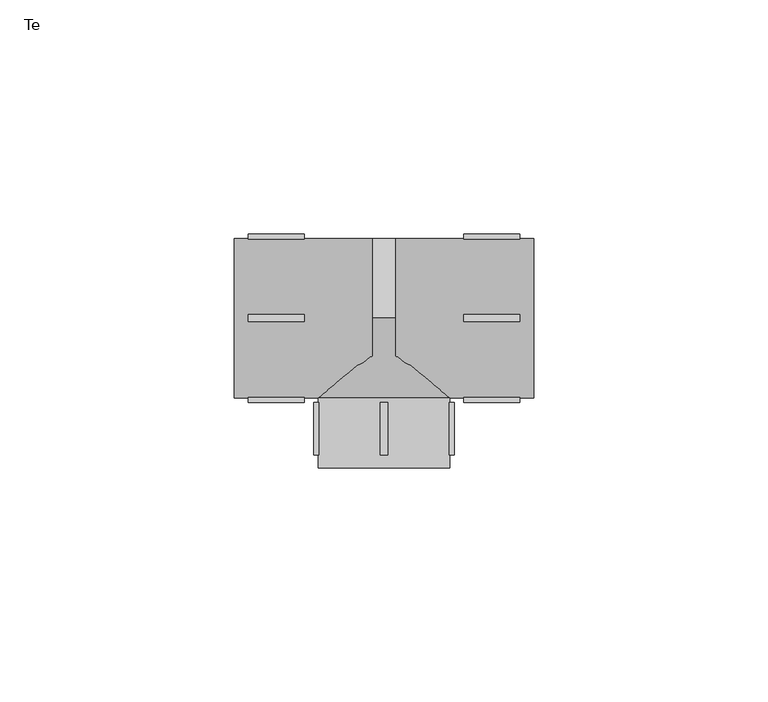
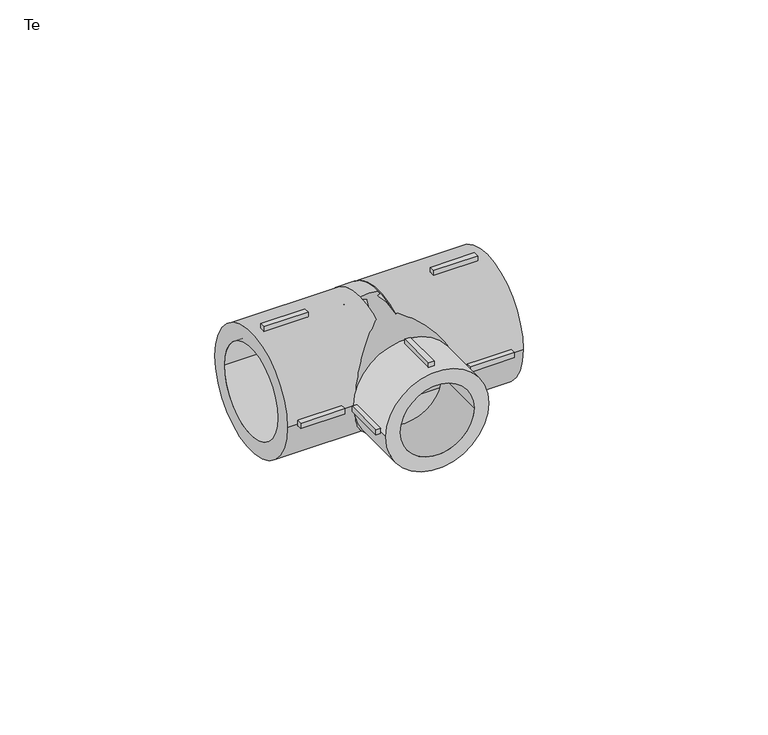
"""IFC4 building model written with IfcOpenShell, lengths in millimetres: pipe fitting geometry, EGB_VASEN_ PPR_Te WXR300_Te reducida WXR310 : Te."""

from ifc_helpers import new_model, si_unit, point, frame, origin, origin_2d, place, context, project, spatial, polyline, circle_curve, trimmed, segment, composite_curve, outline, extrude, source, transform, mapped, element, save
from ifc_brep_helpers import plane_surface, revolved_surface, advanced_brep


def te_0583ec98(model_context):
    return source(origin(), model_context, "Body", "SolidModel", [
        extrude(outline(polyline([(-0.75, -18.0), (0.75, -18.0), (0.75, -29.2), (-0.75, -29.2), (-0.75, -18.0)])), frame((0.0, 0.0, 13.0), z_axis=(0.0, 0.0, 1.0), x_axis=(1.0, 0.0, 0.0)), (0.0, 0.0, 1.0), 2.0),
        extrude(outline(polyline([(-0.75, -18.0), (0.75, -18.0), (0.75, -29.2), (-0.75, -29.2), (-0.75, -18.0)])), frame((0.0, 0.0, -15.0), z_axis=(0.0, 0.0, 1.0), x_axis=(1.0, 0.0, 0.0)), (0.0, 0.0, 1.0), 2.0),
        extrude(outline(polyline([(13.0, -18.0), (15.0, -18.0), (15.0, -29.2), (13.0, -29.2), (13.0, -18.0)])), frame((0.0, 0.0, -0.75), z_axis=(0.0, 0.0, 1.0), x_axis=(1.0, 0.0, 0.0)), (0.0, 0.0, 1.0), 1.5),
        extrude(outline(polyline([(-15.0, -18.0), (-13.0, -18.0), (-13.0, -29.2), (-15.0, -29.2), (-15.0, -18.0)])), frame((0.0, 0.0, -0.75), z_axis=(0.0, 0.0, 1.0), x_axis=(1.0, 0.0, 0.0)), (0.0, 0.0, 1.0), 1.5),
        extrude(outline(polyline([(17.0, -0.75), (17.0, 0.75), (29.0, 0.75), (29.0, -0.75), (17.0, -0.75)])), frame((0.0, 0.0, 16.0), z_axis=(0.0, 0.0, 1.0), x_axis=(1.0, 0.0, 0.0)), (0.0, 0.0, 1.0), 2.0),
        extrude(outline(polyline([(17.0, -0.75), (17.0, 0.75), (29.0, 0.75), (29.0, -0.75), (17.0, -0.75)])), frame((0.0, 0.0, -18.0), z_axis=(0.0, 0.0, 1.0), x_axis=(1.0, 0.0, 0.0)), (0.0, 0.0, 1.0), 2.0),
        extrude(outline(polyline([(17.0, 16.0), (17.0, 18.0), (29.0, 18.0), (29.0, 16.0), (17.0, 16.0)])), frame((0.0, 0.0, -0.75), z_axis=(0.0, 0.0, 1.0), x_axis=(1.0, 0.0, 0.0)), (0.0, 0.0, 1.0), 1.5),
        extrude(outline(polyline([(17.0, -18.0), (17.0, -16.0), (29.0, -16.0), (29.0, -18.0), (17.0, -18.0)])), frame((0.0, 0.0, -0.75), z_axis=(0.0, 0.0, 1.0), x_axis=(1.0, 0.0, 0.0)), (0.0, 0.0, 1.0), 1.5),
        extrude(outline(polyline([(-17.0, 0.75), (-17.0, -0.75), (-29.0, -0.75), (-29.0, 0.75), (-17.0, 0.75)])), frame((0.0, 0.0, 16.0), z_axis=(0.0, 0.0, 1.0), x_axis=(1.0, 0.0, 0.0)), (0.0, 0.0, 1.0), 2.0),
        extrude(outline(polyline([(-17.0, 0.75), (-17.0, -0.75), (-29.0, -0.75), (-29.0, 0.75), (-17.0, 0.75)])), frame((0.0, 0.0, -18.0), z_axis=(0.0, 0.0, 1.0), x_axis=(1.0, 0.0, 0.0)), (0.0, 0.0, 1.0), 2.0),
        extrude(outline(polyline([(-17.0, 18.0), (-17.0, 16.0), (-29.0, 16.0), (-29.0, 18.0), (-17.0, 18.0)])), frame((0.0, 0.0, -0.75), z_axis=(0.0, 0.0, 1.0), x_axis=(1.0, 0.0, 0.0)), (0.0, 0.0, 1.0), 1.5),
        extrude(outline(polyline([(-17.0, -16.0), (-17.0, -18.0), (-29.0, -18.0), (-29.0, -16.0), (-17.0, -16.0)])), frame((0.0, 0.0, -0.75), z_axis=(0.0, 0.0, 1.0), x_axis=(1.0, 0.0, 0.0)), (0.0, 0.0, 1.0), 1.5),
        extrude(outline(composite_curve([segment(trimmed(circle_curve(origin_2d(), 14.0), [point((0.0, 14.0))], [point((0.0, -14.0))], False, "CARTESIAN"), True, "CONTINUOUS"), segment(trimmed(circle_curve(origin_2d(), 14.0), [point((0.0, -14.0))], [point((0.0, 14.0))], False, "CARTESIAN"), True, "CONTINUOUS")], self_intersect=False), holes=[composite_curve([segment(trimmed(circle_curve(origin_2d(), 10.0), [point((0.0, 10.0))], [point((0.0, -10.0))], True, "CARTESIAN"), True, "CONTINUOUS"), segment(trimmed(circle_curve(origin_2d(), 10.0), [point((0.0, -10.0))], [point((0.0, 10.0))], True, "CARTESIAN"), True, "CONTINUOUS")], self_intersect=False)]), frame((0.0, -32.0, 0.0), z_axis=(0.0, 1.0, 0.0), x_axis=(0.0, 0.0, 1.0)), (0.0, 0.0, 1.0), 15.0),
        extrude(outline(composite_curve([segment(trimmed(circle_curve(origin_2d(), 17.0), [point((-17.0, 0.0))], [point((17.0, 0.0))], False, "CARTESIAN"), True, "CONTINUOUS"), segment(trimmed(circle_curve(origin_2d(), 17.0), [point((17.0, 0.0))], [point((-17.0, 0.0))], False, "CARTESIAN"), True, "CONTINUOUS")], self_intersect=False), holes=[composite_curve([segment(trimmed(circle_curve(origin_2d(), 12.5), [point((-12.5, 0.0))], [point((12.5, 0.0))], True, "CARTESIAN"), True, "CONTINUOUS"), segment(trimmed(circle_curve(origin_2d(), 12.5), [point((12.5, 0.0))], [point((-12.5, 0.0))], True, "CARTESIAN"), True, "CONTINUOUS")], self_intersect=False)]), frame((2.56, 0.0, 0.0), z_axis=(1.0, 0.0, 0.0), x_axis=(0.0, 1.0, 0.0)), (0.0, 0.0, 1.0), 29.44),
        extrude(outline(composite_curve([segment(trimmed(circle_curve(origin_2d(), 17.0), [point((-17.0, 0.0))], [point((17.0, 0.0))], False, "CARTESIAN"), True, "CONTINUOUS"), segment(trimmed(circle_curve(origin_2d(), 17.0), [point((17.0, 0.0))], [point((-17.0, 0.0))], False, "CARTESIAN"), True, "CONTINUOUS")], self_intersect=False), holes=[composite_curve([segment(trimmed(circle_curve(origin_2d(), 12.5), [point((-12.5, 0.0))], [point((12.5, 0.0))], True, "CARTESIAN"), True, "CONTINUOUS"), segment(trimmed(circle_curve(origin_2d(), 12.5), [point((12.5, 0.0))], [point((-12.5, 0.0))], True, "CARTESIAN"), True, "CONTINUOUS")], self_intersect=False)]), frame((-32.0, 0.0, 0.0), z_axis=(1.0, 0.0, 0.0), x_axis=(0.0, 1.0, 0.0)), (0.0, 0.0, 1.0), 29.44),
        advanced_brep(
        [(17.0, 0.0, 0.0), (-17.0, 0.0, 0.0), (14.0, -17.0, 0.0), (-14.0, -17.0, 0.0)],
        [
            (0, 1, circle_curve(frame((0.0, 0.0, 0.0), z_axis=(0.0, 1.0, 0.0), x_axis=(1.0, 0.0, 0.0)), 17.0)),
            (1, 0, circle_curve(frame((0.0, 0.0, 0.0), z_axis=(0.0, 1.0, 0.0), x_axis=(-1.0, 0.0, 0.0)), 17.0)),
            (2, 3, circle_curve(frame((0.0, -17.0, 0.0), z_axis=(0.0, -1.0, 0.0), x_axis=(-1.0, 0.0, 0.0)), 14.0)),
            (3, 2, circle_curve(frame((0.0, -17.0, 0.0), z_axis=(0.0, -1.0, 0.0), x_axis=(1.0, 0.0, 0.0)), 14.0)),
            (3, 1),
            (0, 2),
        ],
        [
            plane_surface(frame((0.0, 0.0, 0.0), z_axis=(0.0, 1.0, 0.0), x_axis=(0.0, 0.0, -1.0))),
            plane_surface(frame((0.0, -17.0, 0.0), z_axis=(0.0, -1.0, 0.0), x_axis=(0.0, 0.0, -1.0))),
            revolved_surface(polyline([(-13.999999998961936, -17.0, 0.0), (-17.0, 0.0, 0.0)]), (0.0, -96.3333333, 0.0), (0.0, 1.0, 0.0)),
            revolved_surface(polyline([(13.999999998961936, -17.0, 0.0), (17.0, 0.0, 0.0)]), (0.0, -96.3333333, 0.0), (0.0, 1.0, 0.0)),
        ],
        [
            (0, [[1, 2]]),
            (1, [[3, 4]]),
            (2, [[-4, 5, -1, 6]]),
            (3, [[-3, -6, -2, -5]]),
        ],
    ),
        extrude(outline(composite_curve([segment(trimmed(circle_curve(origin_2d(), 17.0), [point((-17.0, 0.0))], [point((17.0, 0.0))], False, "CARTESIAN"), True, "CONTINUOUS"), segment(trimmed(circle_curve(origin_2d(), 17.0), [point((17.0, 0.0))], [point((-17.0, 0.0))], False, "CARTESIAN"), True, "CONTINUOUS")], self_intersect=False)), frame((-2.56, 0.0, 0.0), z_axis=(1.0, 0.0, 0.0), x_axis=(0.0, 1.0, 0.0)), (0.0, 0.0, 1.0), 5.12),
    ])


if __name__ == "__main__":
    model = new_model("IFC4")
    model_context = context("Model", 3, world=origin())
    ifc_project = project(units=[si_unit("LENGTHUNIT", "METRE", prefix="MILLI")], contexts=[model_context])
    site = spatial("IfcSite", under=ifc_project)
    building = spatial("IfcBuilding", under=site)
    placement = place(None, origin())
    te_shape = te_0583ec98(model_context)
    element("IfcPipeFitting", 1, ObjectType="EGB_VASEN_ PPR_Te WXR300_Te reducida WXR310 : Te", at=placement, inside=building, context=model_context, shape_type="MappedRepresentation", body=[
        mapped(te_shape, transform((0.0, 0.0, 0.0), x_axis=(1.0, 0.0, 0.0), y_axis=(0.0, 1.0, 0.0), z_axis=(0.0, 0.0, 1.0))),
    ])
    save(model, "model.ifc")
